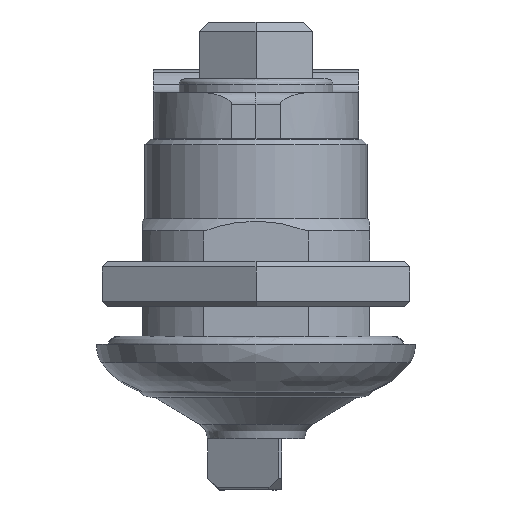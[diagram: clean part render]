
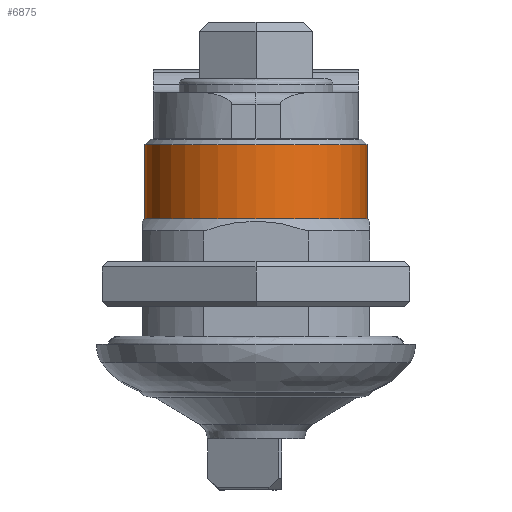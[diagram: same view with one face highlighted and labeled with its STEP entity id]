
A CAD part, left-side view. The second image highlights one B-rep face of the part: STEP entity #6875.
In plain terms, the highlighted cylindrical face has radius 9.75 mm (diameter 19.5 mm), a full revolution.
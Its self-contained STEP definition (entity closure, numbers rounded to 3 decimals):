
#6755=CARTESIAN_POINT('',(-417.117,-478.359,-60.079));
#6756=VERTEX_POINT('',#6755);
#6822=CARTESIAN_POINT('',(-417.117,-497.859,-60.079));
#6823=VERTEX_POINT('',#6822);
#6824=CARTESIAN_POINT('',(-417.117,-488.109,-60.079));
#6825=DIRECTION('',(0.,0.0,-1.0));
#6826=DIRECTION('',(0.0,1.0,0.0));
#6827=AXIS2_PLACEMENT_3D('',#6824,#6825,#6826);
#6828=CIRCLE('',#6827,9.75);
#6829=EDGE_CURVE('',#6756,#6823,#6828,.T.);
#6831=CARTESIAN_POINT('',(-417.117,-488.109,-60.079));
#6832=DIRECTION('',(0.,0.0,-1.0));
#6833=DIRECTION('',(0.0,1.0,0.0));
#6834=AXIS2_PLACEMENT_3D('',#6831,#6832,#6833);
#6835=CIRCLE('',#6834,9.75);
#6836=EDGE_CURVE('',#6823,#6756,#6835,.T.);
#6841=CARTESIAN_POINT('',(-417.117,-488.109,-60.079));
#6842=DIRECTION('',(0.,0.0,-1.0));
#6843=DIRECTION('',(0.0,1.0,0.0));
#6844=AXIS2_PLACEMENT_3D('',#6841,#6842,#6843);
#6845=CYLINDRICAL_SURFACE('',#6844,9.75);
#6846=CARTESIAN_POINT('',(-417.117,-478.359,-53.579));
#6847=VERTEX_POINT('',#6846);
#6848=CARTESIAN_POINT('',(-417.117,-478.359,-60.079));
#6849=DIRECTION('',(0.0,0.0,1.0));
#6850=VECTOR('',#6849,6.5);
#6851=LINE('',#6848,#6850);
#6852=EDGE_CURVE('',#6756,#6847,#6851,.T.);
#6853=ORIENTED_EDGE('',*,*,#6852,.T.);
#6854=CARTESIAN_POINT('',(-417.117,-497.859,-53.579));
#6855=VERTEX_POINT('',#6854);
#6856=CARTESIAN_POINT('',(-417.117,-488.109,-53.579));
#6857=DIRECTION('',(0.,0.,-1.0));
#6858=DIRECTION('',(0.,1.0,0.0));
#6859=AXIS2_PLACEMENT_3D('',#6856,#6857,#6858);
#6860=CIRCLE('',#6859,9.75);
#6861=EDGE_CURVE('',#6847,#6855,#6860,.T.);
#6862=ORIENTED_EDGE('',*,*,#6861,.T.);
#6863=CARTESIAN_POINT('',(-417.117,-488.109,-53.579));
#6864=DIRECTION('',(0.,0.,-1.0));
#6865=DIRECTION('',(0.,1.0,0.0));
#6866=AXIS2_PLACEMENT_3D('',#6863,#6864,#6865);
#6867=CIRCLE('',#6866,9.75);
#6868=EDGE_CURVE('',#6855,#6847,#6867,.T.);
#6869=ORIENTED_EDGE('',*,*,#6868,.T.);
#6870=ORIENTED_EDGE('',*,*,#6852,.F.);
#6871=ORIENTED_EDGE('',*,*,#6836,.F.);
#6872=ORIENTED_EDGE('',*,*,#6829,.F.);
#6873=EDGE_LOOP('',(#6853,#6862,#6869,#6870,#6871,#6872));
#6874=FACE_OUTER_BOUND('',#6873,.T.);
#6875=ADVANCED_FACE('',(#6874),#6845,.T.);
